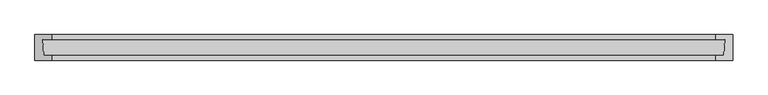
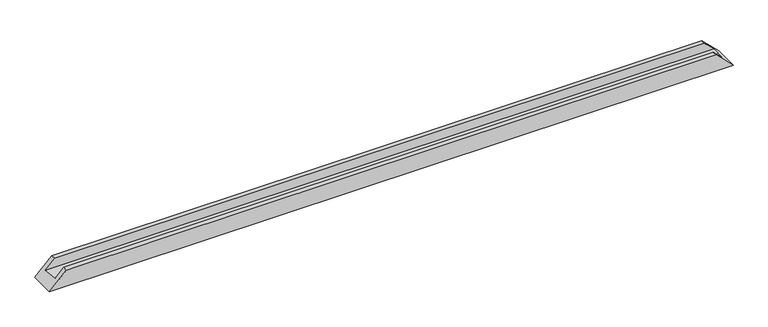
"""IFC4 building model written with IfcOpenShell, lengths in millimetres: proxy geometry, Weiku - Montante - Caixilho duplo 02.2.01.002 : Weiku - Montante - Caixilho duplo 02.2.01.002."""

from ifc_helpers import new_model, si_unit, origin, place, context, project, spatial, faceted_brep, source, transform, mapped, element, save


def generic_models_4bcdf12d(model_context):
    return source(origin(), model_context, "Body", "Brep", [
        faceted_brep([(-1021.5, 15.0, 26.0), (-995.5, 15.0, 52.0), (995.5, 15.0, 52.0), (1021.5, 15.0, 26.0), (-1023.7229744, 62.0, 23.7770256), (1023.7229744, 62.0, 23.7770256), (-995.5, 62.0, 52.0), (995.5, 62.0, 52.0), (-995.5, 77.0, 52.0), (995.5, 77.0, 52.0), (1047.5, 77.0, 0.0), (-1047.5, 77.0, 0.0), (1047.5, 0.0, 0.0), (-1047.5, 0.0, 0.0), (995.5, 0.0, 52.0), (-995.5, 0.0, 52.0)], [[[0, 1, 2, 3]], [[4, 0, 3, 5]], [[6, 4, 5, 7]], [[8, 6, 7, 9]], [[10, 11, 8, 9]], [[11, 10, 12, 13]], [[13, 12, 14, 15]], [[1, 15, 14, 2]], [[1, 0, 4, 6, 8, 11, 13, 15]], [[3, 2, 14, 12, 10, 9, 7, 5]]]),
    ])


if __name__ == "__main__":
    model = new_model("IFC4")
    model_context = context("Model", 3, world=origin())
    ifc_project = project(units=[si_unit("LENGTHUNIT", "METRE", prefix="MILLI")], contexts=[model_context])
    site = spatial("IfcSite", under=ifc_project)
    building = spatial("IfcBuilding", under=site)
    placement = place(None, origin())
    generic_models_shape = generic_models_4bcdf12d(model_context)
    element("IfcBuildingElementProxy", 1, Name="Weiku - Montante - Caixilho duplo 02.2.01.002 : Weiku - Montante - Caixilho duplo 02.2.01.002", ObjectType="Weiku - Montante - Caixilho duplo 02.2.01.002 : Weiku - Montante - Caixilho duplo 02.2.01.002", at=placement, inside=building, context=model_context, shape_type="MappedRepresentation", body=[
        mapped(generic_models_shape, transform((0.0, 0.0, 0.0), x_axis=(1.0, 0.0, 0.0), y_axis=(0.0, 1.0, 0.0), z_axis=(0.0, 0.0, 1.0))),
    ])
    save(model, "model.ifc")
